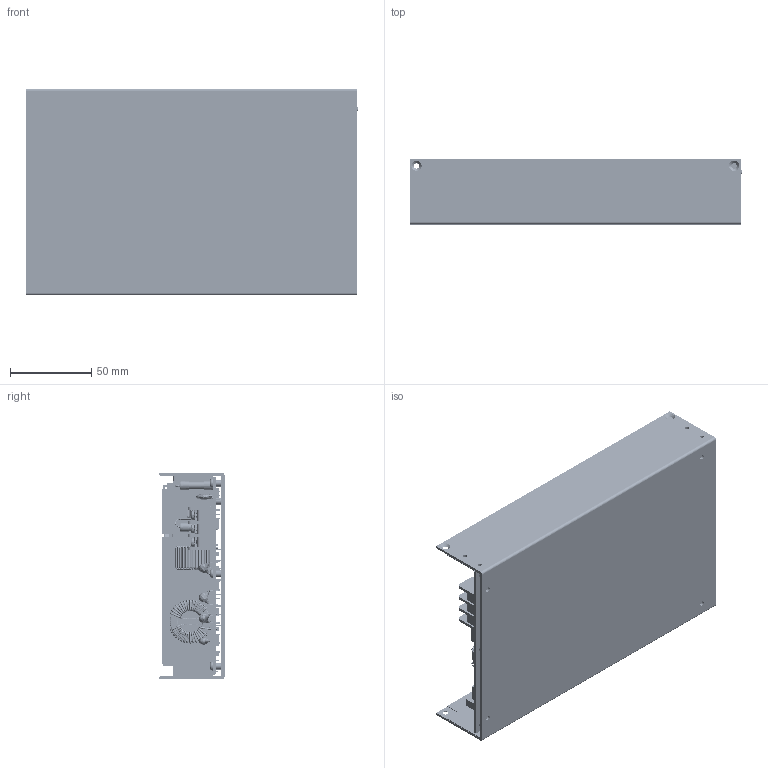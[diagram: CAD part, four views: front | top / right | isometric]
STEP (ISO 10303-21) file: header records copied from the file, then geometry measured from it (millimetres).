
FILE_DESCRIPTION (( 'STEP AP214' ), '1' );
FILE_NAME ('UCH750.STEP', '2026-07-28T08:57:49', ( '' ), ( '' ), 'SwSTEP 2.0', 'SolidWorks 2024', '' );
FILE_SCHEMA (( 'AUTOMOTIVE_DESIGN' ));
Length unit declared in the file: millimetre
Products named in the file (56): UCH750 13x30; _p_O_1; Y1 cap_1; 86K125A60X_1; r53s10-7030 -1_1; 830A6069HZ_1; R55MX3-0321_1; 86K139N60W  Q15,16_1; r56m93-6221_1; r53s10-7030 -2_1; 37a02-0010_1; P2.6x4 ISONI_1; r53s10-7070_1; 728370681L 5x11_1; 728370681L 680U16v(8x16) CAP_1; r53s10-7030_1; R36BA36-003  6P_1; r3140107027-3P_1; 86K139N60W  Q15,16-0_1; 25x20_1; 85U7X600P1_1; 25170-7280_1; 8103112015 LED_1; 86K125A60X-2_1; R2 FSQM_1; 37a03-0010  02_1; P 3x5 ISOTW (2)_1; r36ba33002 3P_1; 29720-0190 LED _y_1; UCH750 PCB; 17.5x16-2_1; 48F11-0003-RT1_1; R53S10-7050_1; PCB-2_1; R56MM3-2031_1; E346160_1; R51F68-2022  F1_1; 25170-7290_1; LS1_1; 25170-7310_1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
Assembly tree (87 placements, depth 4):
  UCH750
    UCH750 1
      UCH600_p_O___X__
        _p_O_1
        R36BA36-003  6P_1
        830A6069HZ_1
        r53s10-7070_1
        728370681L 5x11_1  x2
        728370681L 680U16v(8x16) CAP_1
        R55MB7-509N_1
        r3140107027-3P_1
        29720-0190 LED _y_1
        8103112015 LED_1
        r36ba33002 3P_1
      37a02-0010_1
        37a03-0010  02_1
        37a03-0010 01_1  x3
      r53s10-7030_1  x2
        r53s10-7030 -2_1
        r53s10-7030 -1_1
      UCH750 PCB
      P820-W_1  x4
      R9025400010_1
      20300-2780_1
      25170-7280_1
      25170-7300_1
      25170-7310_1
      25170-7290_1
      E346160_1  x2
      7c9f705612g  30x50_1
      R89D03-0711_1
      R53S10-7050_1
      R55MX3-0321_1
      r56m93-6221_1
      R56MM3-2031_1
      17.5x16-2_1  x3
      25x20_1  x2
      UCH750 13x30  x7
      7CD4701011 (6.3x11)_1  x2
      RV1_1
      LS1_1
      R2 FSQM_1
      86K139N60W  Q15,16_1
      86K139N60W  Q15,16-0_1
      85U7X600P1_1
      85U7X600P1-1_1
      86K125A60X_1
      86K125A60X-2_1
      R51F31-1031-F1,2_1  x2
      Y1 cap_1  x4
      PCB-2_1
      I 3x5 ISOTW_1  x6
      P2.6x4 ISONI_1  x2
      48F11-0003-RT1_1
      R51F68-2022  F1_1
      P 3x5 ISOTW (2)_1  x5
Bounding box: 204.1 x 40 x 127 mm (x, y, z)
Volume: 383280.9 mm3; surface area: 384638.2 mm2
Topology: 136 solids, 212 shells, 6824 faces, 16637 edges, 10212 vertices
Faces by surface type: plane 3041, cylinder 1970, torus 841, bspline 837, sphere 72, cone 63
Entity records: 189165 total; most frequent: CARTESIAN_POINT 84729, ORIENTED_EDGE 23750, DIRECTION 16614, EDGE_CURVE 11889, VERTEX_POINT 7266, AXIS2_PLACEMENT_3D 5794, EDGE_LOOP 5281, LINE 5026
